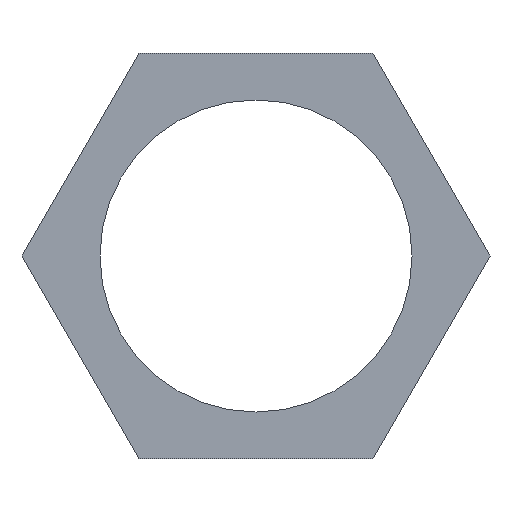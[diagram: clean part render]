
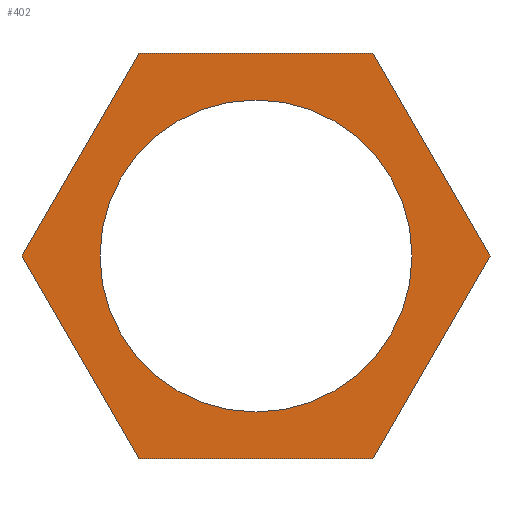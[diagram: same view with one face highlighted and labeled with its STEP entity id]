
A CAD part, front view. The second image highlights one B-rep face of the part: STEP entity #402.
In plain terms, the highlighted planar face has unit normal (0, -1, 0).
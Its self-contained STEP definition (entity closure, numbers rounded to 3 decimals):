
#24 = VERTEX_POINT('',#25);
#25 = CARTESIAN_POINT('',(-215.5,102.,68.94));
#32 = PLANE('',#33);
#33 = AXIS2_PLACEMENT_3D('',#34,#35,#36);
#34 = CARTESIAN_POINT('',(-215.5,109.,68.94));
#35 = DIRECTION('',(-0.866,-0.,-0.5));
#36 = DIRECTION('',(-0.5,0.,0.866));
#44 = PLANE('',#45);
#45 = AXIS2_PLACEMENT_3D('',#46,#47,#48);
#46 = CARTESIAN_POINT('',(-220.,109.,61.146));
#47 = DIRECTION('',(-0.866,0.,0.5));
#48 = DIRECTION('',(0.5,0.,0.866));
#56 = EDGE_CURVE('',#24,#57,#59,.T.);
#57 = VERTEX_POINT('',#58);
#58 = CARTESIAN_POINT('',(-220.,102.,76.734));
#59 = SURFACE_CURVE('',#60,(#64,#71),.PCURVE_S1.);
#60 = LINE('',#61,#62);
#61 = CARTESIAN_POINT('',(-215.5,102.,68.94));
#62 = VECTOR('',#63,1.);
#63 = DIRECTION('',(-0.5,0.,0.866));
#64 = PCURVE('',#32,#65);
#65 = DEFINITIONAL_REPRESENTATION('',(#66),#70);
#66 = LINE('',#67,#68);
#67 = CARTESIAN_POINT('',(0.,-7.));
#68 = VECTOR('',#69,1.);
#69 = DIRECTION('',(1.,0.));
#70 = ( GEOMETRIC_REPRESENTATION_CONTEXT(2) 
PARAMETRIC_REPRESENTATION_CONTEXT() REPRESENTATION_CONTEXT('2D SPACE',''
  ) );
#71 = PCURVE('',#72,#77);
#72 = PLANE('',#73);
#73 = AXIS2_PLACEMENT_3D('',#74,#75,#76);
#74 = CARTESIAN_POINT('',(-224.5,102.,68.94));
#75 = DIRECTION('',(-0.,-1.,-0.));
#76 = DIRECTION('',(0.,0.,-1.));
#77 = DEFINITIONAL_REPRESENTATION('',(#78),#82);
#78 = LINE('',#79,#80);
#79 = CARTESIAN_POINT('',(0.,9.));
#80 = VECTOR('',#81,1.);
#81 = DIRECTION('',(-0.866,-0.5));
#82 = ( GEOMETRIC_REPRESENTATION_CONTEXT(2) 
PARAMETRIC_REPRESENTATION_CONTEXT() REPRESENTATION_CONTEXT('2D SPACE',''
  ) );
#100 = PLANE('',#101);
#101 = AXIS2_PLACEMENT_3D('',#102,#103,#104);
#102 = CARTESIAN_POINT('',(-220.,109.,76.734));
#103 = DIRECTION('',(0.,-0.,-1.));
#104 = DIRECTION('',(-1.,0.,0.));
#144 = VERTEX_POINT('',#145);
#145 = CARTESIAN_POINT('',(-220.,102.,61.146));
#159 = PLANE('',#160);
#160 = AXIS2_PLACEMENT_3D('',#161,#162,#163);
#161 = CARTESIAN_POINT('',(-229.,109.,61.146));
#162 = DIRECTION('',(0.,0.,1.));
#163 = DIRECTION('',(1.,0.,0.));
#171 = EDGE_CURVE('',#144,#24,#172,.T.);
#172 = SURFACE_CURVE('',#173,(#177,#184),.PCURVE_S1.);
#173 = LINE('',#174,#175);
#174 = CARTESIAN_POINT('',(-220.,102.,61.146));
#175 = VECTOR('',#176,1.);
#176 = DIRECTION('',(0.5,0.,0.866));
#177 = PCURVE('',#44,#178);
#178 = DEFINITIONAL_REPRESENTATION('',(#179),#183);
#179 = LINE('',#180,#181);
#180 = CARTESIAN_POINT('',(0.,-7.));
#181 = VECTOR('',#182,1.);
#182 = DIRECTION('',(1.,0.));
#183 = ( GEOMETRIC_REPRESENTATION_CONTEXT(2) 
PARAMETRIC_REPRESENTATION_CONTEXT() REPRESENTATION_CONTEXT('2D SPACE',''
  ) );
#184 = PCURVE('',#72,#185);
#185 = DEFINITIONAL_REPRESENTATION('',(#186),#190);
#186 = LINE('',#187,#188);
#187 = CARTESIAN_POINT('',(7.794,4.5));
#188 = VECTOR('',#189,1.);
#189 = DIRECTION('',(-0.866,0.5));
#190 = ( GEOMETRIC_REPRESENTATION_CONTEXT(2) 
PARAMETRIC_REPRESENTATION_CONTEXT() REPRESENTATION_CONTEXT('2D SPACE',''
  ) );
#218 = EDGE_CURVE('',#57,#219,#221,.T.);
#219 = VERTEX_POINT('',#220);
#220 = CARTESIAN_POINT('',(-229.,102.,76.734));
#221 = SURFACE_CURVE('',#222,(#226,#233),.PCURVE_S1.);
#222 = LINE('',#223,#224);
#223 = CARTESIAN_POINT('',(-220.,102.,76.734));
#224 = VECTOR('',#225,1.);
#225 = DIRECTION('',(-1.,0.,0.));
#226 = PCURVE('',#100,#227);
#227 = DEFINITIONAL_REPRESENTATION('',(#228),#232);
#228 = LINE('',#229,#230);
#229 = CARTESIAN_POINT('',(0.,-7.));
#230 = VECTOR('',#231,1.);
#231 = DIRECTION('',(1.,0.));
#232 = ( GEOMETRIC_REPRESENTATION_CONTEXT(2) 
PARAMETRIC_REPRESENTATION_CONTEXT() REPRESENTATION_CONTEXT('2D SPACE',''
  ) );
#233 = PCURVE('',#72,#234);
#234 = DEFINITIONAL_REPRESENTATION('',(#235),#239);
#235 = LINE('',#236,#237);
#236 = CARTESIAN_POINT('',(-7.794,4.5));
#237 = VECTOR('',#238,1.);
#238 = DIRECTION('',(0.,-1.));
#239 = ( GEOMETRIC_REPRESENTATION_CONTEXT(2) 
PARAMETRIC_REPRESENTATION_CONTEXT() REPRESENTATION_CONTEXT('2D SPACE',''
  ) );
#257 = PLANE('',#258);
#258 = AXIS2_PLACEMENT_3D('',#259,#260,#261);
#259 = CARTESIAN_POINT('',(-229.,109.,76.734));
#260 = DIRECTION('',(0.866,0.,-0.5));
#261 = DIRECTION('',(-0.5,-0.,-0.866));
#334 = PLANE('',#335);
#335 = AXIS2_PLACEMENT_3D('',#336,#337,#338);
#336 = CARTESIAN_POINT('',(-233.5,109.,68.94));
#337 = DIRECTION('',(0.866,0.,0.5));
#338 = DIRECTION('',(0.5,0.,-0.866));
#391 = CYLINDRICAL_SURFACE('',#392,6.);
#392 = AXIS2_PLACEMENT_3D('',#393,#394,#395);
#393 = CARTESIAN_POINT('',(-224.5,101.,68.94));
#394 = DIRECTION('',(0.,1.,0.));
#395 = DIRECTION('',(0.,-0.,1.));
#402 = ADVANCED_FACE('',(#403,#475),#72,.T.);
#403 = FACE_BOUND('',#404,.T.);
#404 = EDGE_LOOP('',(#405,#406,#407,#430,#453,#474));
#405 = ORIENTED_EDGE('',*,*,#56,.T.);
#406 = ORIENTED_EDGE('',*,*,#218,.T.);
#407 = ORIENTED_EDGE('',*,*,#408,.T.);
#408 = EDGE_CURVE('',#219,#409,#411,.T.);
#409 = VERTEX_POINT('',#410);
#410 = CARTESIAN_POINT('',(-233.5,102.,68.94));
#411 = SURFACE_CURVE('',#412,(#416,#423),.PCURVE_S1.);
#412 = LINE('',#413,#414);
#413 = CARTESIAN_POINT('',(-229.,102.,76.734));
#414 = VECTOR('',#415,1.);
#415 = DIRECTION('',(-0.5,-0.,-0.866));
#416 = PCURVE('',#72,#417);
#417 = DEFINITIONAL_REPRESENTATION('',(#418),#422);
#418 = LINE('',#419,#420);
#419 = CARTESIAN_POINT('',(-7.794,-4.5));
#420 = VECTOR('',#421,1.);
#421 = DIRECTION('',(0.866,-0.5));
#422 = ( GEOMETRIC_REPRESENTATION_CONTEXT(2) 
PARAMETRIC_REPRESENTATION_CONTEXT() REPRESENTATION_CONTEXT('2D SPACE',''
  ) );
#423 = PCURVE('',#257,#424);
#424 = DEFINITIONAL_REPRESENTATION('',(#425),#429);
#425 = LINE('',#426,#427);
#426 = CARTESIAN_POINT('',(0.,-7.));
#427 = VECTOR('',#428,1.);
#428 = DIRECTION('',(1.,0.));
#429 = ( GEOMETRIC_REPRESENTATION_CONTEXT(2) 
PARAMETRIC_REPRESENTATION_CONTEXT() REPRESENTATION_CONTEXT('2D SPACE',''
  ) );
#430 = ORIENTED_EDGE('',*,*,#431,.T.);
#431 = EDGE_CURVE('',#409,#432,#434,.T.);
#432 = VERTEX_POINT('',#433);
#433 = CARTESIAN_POINT('',(-229.,102.,61.146));
#434 = SURFACE_CURVE('',#435,(#439,#446),.PCURVE_S1.);
#435 = LINE('',#436,#437);
#436 = CARTESIAN_POINT('',(-233.5,102.,68.94));
#437 = VECTOR('',#438,1.);
#438 = DIRECTION('',(0.5,0.,-0.866));
#439 = PCURVE('',#72,#440);
#440 = DEFINITIONAL_REPRESENTATION('',(#441),#445);
#441 = LINE('',#442,#443);
#442 = CARTESIAN_POINT('',(0.,-9.));
#443 = VECTOR('',#444,1.);
#444 = DIRECTION('',(0.866,0.5));
#445 = ( GEOMETRIC_REPRESENTATION_CONTEXT(2) 
PARAMETRIC_REPRESENTATION_CONTEXT() REPRESENTATION_CONTEXT('2D SPACE',''
  ) );
#446 = PCURVE('',#334,#447);
#447 = DEFINITIONAL_REPRESENTATION('',(#448),#452);
#448 = LINE('',#449,#450);
#449 = CARTESIAN_POINT('',(0.,-7.));
#450 = VECTOR('',#451,1.);
#451 = DIRECTION('',(1.,0.));
#452 = ( GEOMETRIC_REPRESENTATION_CONTEXT(2) 
PARAMETRIC_REPRESENTATION_CONTEXT() REPRESENTATION_CONTEXT('2D SPACE',''
  ) );
#453 = ORIENTED_EDGE('',*,*,#454,.T.);
#454 = EDGE_CURVE('',#432,#144,#455,.T.);
#455 = SURFACE_CURVE('',#456,(#460,#467),.PCURVE_S1.);
#456 = LINE('',#457,#458);
#457 = CARTESIAN_POINT('',(-229.,102.,61.146));
#458 = VECTOR('',#459,1.);
#459 = DIRECTION('',(1.,0.,0.));
#460 = PCURVE('',#72,#461);
#461 = DEFINITIONAL_REPRESENTATION('',(#462),#466);
#462 = LINE('',#463,#464);
#463 = CARTESIAN_POINT('',(7.794,-4.5));
#464 = VECTOR('',#465,1.);
#465 = DIRECTION('',(0.,1.));
#466 = ( GEOMETRIC_REPRESENTATION_CONTEXT(2) 
PARAMETRIC_REPRESENTATION_CONTEXT() REPRESENTATION_CONTEXT('2D SPACE',''
  ) );
#467 = PCURVE('',#159,#468);
#468 = DEFINITIONAL_REPRESENTATION('',(#469),#473);
#469 = LINE('',#470,#471);
#470 = CARTESIAN_POINT('',(0.,-7.));
#471 = VECTOR('',#472,1.);
#472 = DIRECTION('',(1.,0.));
#473 = ( GEOMETRIC_REPRESENTATION_CONTEXT(2) 
PARAMETRIC_REPRESENTATION_CONTEXT() REPRESENTATION_CONTEXT('2D SPACE',''
  ) );
#474 = ORIENTED_EDGE('',*,*,#171,.T.);
#475 = FACE_BOUND('',#476,.T.);
#476 = EDGE_LOOP('',(#477));
#477 = ORIENTED_EDGE('',*,*,#478,.T.);
#478 = EDGE_CURVE('',#479,#479,#481,.T.);
#479 = VERTEX_POINT('',#480);
#480 = CARTESIAN_POINT('',(-224.5,102.,74.94));
#481 = SURFACE_CURVE('',#482,(#487,#498),.PCURVE_S1.);
#482 = CIRCLE('',#483,6.);
#483 = AXIS2_PLACEMENT_3D('',#484,#485,#486);
#484 = CARTESIAN_POINT('',(-224.5,102.,68.94));
#485 = DIRECTION('',(0.,1.,0.));
#486 = DIRECTION('',(0.,-0.,1.));
#487 = PCURVE('',#72,#488);
#488 = DEFINITIONAL_REPRESENTATION('',(#489),#497);
#489 = ( BOUNDED_CURVE() B_SPLINE_CURVE(2,(#490,#491,#492,#493,#494,#495
,#496),.UNSPECIFIED.,.T.,.F.) B_SPLINE_CURVE_WITH_KNOTS((1,2,2,2,2,1),(
    -2.094,0.,2.094,4.189,6.283,
8.378),.UNSPECIFIED.) CURVE() GEOMETRIC_REPRESENTATION_ITEM() 
RATIONAL_B_SPLINE_CURVE((1.,0.5,1.,0.5,1.,0.5,1.)) REPRESENTATION_ITEM(
  '') );
#490 = CARTESIAN_POINT('',(-6.,0.));
#491 = CARTESIAN_POINT('',(-6.,10.392));
#492 = CARTESIAN_POINT('',(3.,5.196));
#493 = CARTESIAN_POINT('',(12.,0.));
#494 = CARTESIAN_POINT('',(3.,-5.196));
#495 = CARTESIAN_POINT('',(-6.,-10.392));
#496 = CARTESIAN_POINT('',(-6.,0.));
#497 = ( GEOMETRIC_REPRESENTATION_CONTEXT(2) 
PARAMETRIC_REPRESENTATION_CONTEXT() REPRESENTATION_CONTEXT('2D SPACE',''
  ) );
#498 = PCURVE('',#391,#499);
#499 = DEFINITIONAL_REPRESENTATION('',(#500),#504);
#500 = LINE('',#501,#502);
#501 = CARTESIAN_POINT('',(0.,1.));
#502 = VECTOR('',#503,1.);
#503 = DIRECTION('',(1.,0.));
#504 = ( GEOMETRIC_REPRESENTATION_CONTEXT(2) 
PARAMETRIC_REPRESENTATION_CONTEXT() REPRESENTATION_CONTEXT('2D SPACE',''
  ) );
